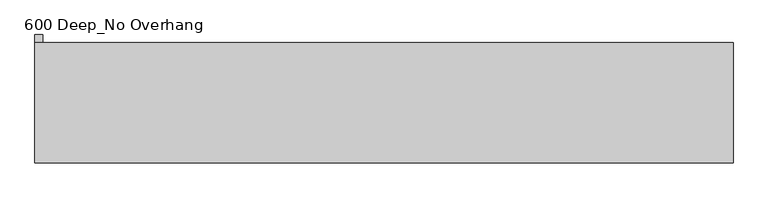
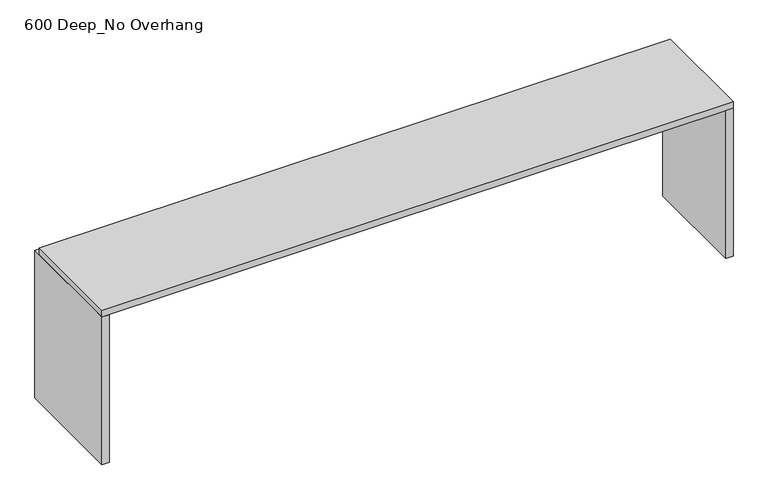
"""IFC4 building model written with IfcOpenShell, lengths in millimetres: furniture geometry, Benchtop_Optional Hole_I Shaped_CAS : 600 Deep_No Overhang."""

import ifcopenshell
import ifcopenshell.guid

model = None  # the IFC model being written
_history = None  # IfcOwnerHistory: only IFC2X3 demands one
_inside = {}  # id of a spatial element -> (the spatial element, [elements in it])
_under = {}  # id of a project, library or spatial element -> (it, [spatial elements below it])
_declared = {}  # id of a project -> (the project, [libraries it declares])
_typed = {}  # id of a type object -> (the type object, [elements of that type])
_made_of = {}  # id of a material, layer set ... -> (it, [elements and type objects made of it])


def new_model(schema):
    """Start an empty IFC model of exactly this schema.

    Asked for "IFC4X3", IfcOpenShell would pick the latest addendum, in which some entities
    have other attributes; the version numbers below select the first issue.
    IFC2X3 requires an IfcOwnerHistory on every rooted entity: one is made here for all.
    """
    global model, _history
    if schema == "IFC4X3":
        model = ifcopenshell.file(schema_version=(4, 3, 0, 0))
    else:
        model = ifcopenshell.file(schema=schema)
    _inside.clear()
    _under.clear()
    _declared.clear()
    _typed.clear()
    _made_of.clear()
    _history = None
    if model.schema == "IFC2X3":
        org = make("IfcOrganization", Name="unknown")
        user = make(
            "IfcPersonAndOrganization",
            ThePerson=make("IfcPerson", FamilyName="unknown"),
            TheOrganization=org,
        )
        app = make(
            "IfcApplication",
            ApplicationDeveloper=org,
            Version="unknown",
            ApplicationFullName="unknown",
            ApplicationIdentifier="unknown",
        )
        _history = make(
            "IfcOwnerHistory",
            OwningUser=user,
            OwningApplication=app,
            ChangeAction="ADDED",
            CreationDate=0,
        )
    return model


def make(cls, **values):
    """One entity of the class cls with the attributes given. An attribute that is None is left unset."""
    return model.create_entity(
        cls, **{name: value for name, value in values.items() if value is not None}
    )


def rooted(cls, **values):
    """An entity with a GlobalId (a new one), such as an element, a storey or a relation."""
    return make(cls, GlobalId=ifcopenshell.guid.new(), OwnerHistory=_history, **values)


def si_unit(unit_type, name, prefix=None):
    """IfcSIUnit, for example si_unit("LENGTHUNIT", "METRE", prefix="MILLI")."""
    return make("IfcSIUnit", UnitType=unit_type, Prefix=prefix, Name=name)


def assignment(units):
    """IfcUnitAssignment: the units of a project."""
    return None if units is None else make("IfcUnitAssignment", Units=units)


def point(xyz):
    """IfcCartesianPoint."""
    return None if xyz is None else make("IfcCartesianPoint", Coordinates=xyz)


def direction(xyz):
    """IfcDirection."""
    return None if xyz is None else make("IfcDirection", DirectionRatios=xyz)


def frame(location, z_axis=None, x_axis=None):
    """IfcAxis2Placement3D, a coordinate frame: its origin and axes. An axis left out is left unset."""
    return make(
        "IfcAxis2Placement3D",
        Location=point(location),
        Axis=direction(z_axis),
        RefDirection=direction(x_axis),
    )


def origin():
    """The frame at (0, 0, 0) with its axes left unset."""
    return frame((0.0, 0.0, 0.0))


def origin_with_axes():
    """The frame at (0, 0, 0) with the z axis (0, 0, 1) and the x axis (1, 0, 0) written out."""
    return frame((0.0, 0.0, 0.0), z_axis=(0.0, 0.0, 1.0), x_axis=(1.0, 0.0, 0.0))


def place(relative_to, where):
    """IfcLocalPlacement: puts the frame where relative to a parent placement (None: the world)."""
    return make(
        "IfcLocalPlacement", PlacementRelTo=relative_to, RelativePlacement=where
    )


def context(
    kind, dimensions, precision=None, world=None, true_north=None, identifier=None
):
    """IfcGeometricRepresentationContext, for example the 3D "Model" context."""
    return make(
        "IfcGeometricRepresentationContext",
        ContextIdentifier=identifier,
        ContextType=kind,
        CoordinateSpaceDimension=dimensions,
        Precision=precision,
        WorldCoordinateSystem=world,
        TrueNorth=true_north,
    )


def project(units=None, contexts=None):
    """IfcProject with its units and contexts."""
    return rooted(
        "IfcProject",
        Name="project",
        RepresentationContexts=contexts,
        UnitsInContext=assignment(units),
    )


def spatial(cls, under=None, at=None, **own):
    """A site, building, storey or space (cls), placed at a placement, below another one or the project."""
    s = rooted(cls, ObjectPlacement=at, **own)
    if under is not None:
        _under.setdefault(under.id(), (under, []))[1].append(s)
    return s


def polyline(points):
    """IfcPolyline through the points."""
    return make("IfcPolyline", Points=[point(p) for p in points])


def outline(outer, holes=None, kind="AREA"):
    """IfcArbitraryClosedProfileDef: a profile drawn as a closed curve; with holes, ...WithVoids."""
    if holes is None:
        return make("IfcArbitraryClosedProfileDef", ProfileType=kind, OuterCurve=outer)
    return make(
        "IfcArbitraryProfileDefWithVoids",
        ProfileType=kind,
        OuterCurve=outer,
        InnerCurves=holes,
    )


def extrude(swept, where, along, depth):
    """IfcExtrudedAreaSolid: the profile swept, set in the frame where, extruded along a direction by depth."""
    return make(
        "IfcExtrudedAreaSolid",
        SweptArea=swept,
        Position=where,
        ExtrudedDirection=direction(along),
        Depth=depth,
    )


def shape(context_of_items, identifier, shape_type, items):
    """IfcShapeRepresentation: the items that make up one representation, for example the "Body"."""
    return make(
        "IfcShapeRepresentation",
        ContextOfItems=context_of_items,
        RepresentationIdentifier=identifier,
        RepresentationType=shape_type,
        Items=items,
    )


def source(mapping_origin, context_of_items, identifier, shape_type, items):
    """IfcRepresentationMap: a shape defined once, which mapped items show again and again."""
    return make(
        "IfcRepresentationMap",
        MappingOrigin=mapping_origin,
        MappedRepresentation=shape(context_of_items, identifier, shape_type, items),
    )


def transform(
    local_origin,
    x_axis=None,
    y_axis=None,
    z_axis=None,
    scale=None,
    scale2=None,
    scale3=None,
    uniform=True,
):
    """IfcCartesianTransformationOperator3D, or its non-uniform kind. x_axis, y_axis, z_axis: its Axis1, 2, 3."""
    if uniform:
        return make(
            "IfcCartesianTransformationOperator3D",
            Axis1=direction(x_axis),
            Axis2=direction(y_axis),
            LocalOrigin=point(local_origin),
            Scale=scale,
            Axis3=direction(z_axis),
        )
    return make(
        "IfcCartesianTransformationOperator3DnonUniform",
        Axis1=direction(x_axis),
        Axis2=direction(y_axis),
        LocalOrigin=point(local_origin),
        Scale=scale,
        Axis3=direction(z_axis),
        Scale2=scale2,
        Scale3=scale3,
    )


def mapped(mapping_source, mapping_target):
    """IfcMappedItem: shows the shape of a source again, moved by a transform."""
    return make(
        "IfcMappedItem", MappingSource=mapping_source, MappingTarget=mapping_target
    )


def made_of(thing, what):
    """Note that an element or type object is made of a material, layer set ...; save() writes the relation."""
    if what is not None:
        _made_of.setdefault(what.id(), (what, []))[1].append(thing)
    return thing


def element(
    cls,
    number,
    at=None,
    inside=None,
    cuts=None,
    type_object=None,
    material=None,
    context=None,
    identifier="Body",
    shape_type=None,
    held_by="IfcProductDefinitionShape",
    body=None,
    shapes=None,
    **own,
):
    """One element of the class cls, such as IfcWall. Its Tag is "e" and its number.

    at: its placement. inside: the storey or other place that contains it. cuts: it is an
    opening in that element (IfcRelVoidsElement). A single representation is given by context,
    identifier, shape_type and body (its items); several are given by shapes. held_by: the class
    of the entity that holds the representations. save() writes the other relations.
    """
    e = rooted(cls, Tag="e%d" % number, ObjectPlacement=at, **own)
    if body is not None:
        shapes = [shape(context, identifier, shape_type, body)]
    if shapes is not None:
        e.Representation = make(held_by, Representations=shapes)
    if inside is not None:
        _inside.setdefault(inside.id(), (inside, []))[1].append(e)
    if cuts is not None:
        rooted(
            "IfcRelVoidsElement", RelatingBuildingElement=cuts, RelatedOpeningElement=e
        )
    if type_object is not None:
        _typed.setdefault(type_object.id(), (type_object, []))[1].append(e)
    return made_of(e, material)


def aggregate(whole, parts):
    """IfcRelAggregates: a whole, such as a stair, and the parts it consists of."""
    return rooted("IfcRelAggregates", RelatingObject=whole, RelatedObjects=parts)


def save(model, path):
    """Write the relations noted so far, then the file.

    IfcRelAggregates (storeys below a building ...), IfcRelContainedInSpatialStructure (elements
    in a storey), IfcRelDefinesByType, IfcRelAssociatesMaterial and IfcRelDeclares: one each for
    every whole, place, type object, material and project.
    """
    for whole, parts in _under.values():
        aggregate(whole, parts)
    for where, things in _inside.values():
        rooted(
            "IfcRelContainedInSpatialStructure",
            RelatedElements=things,
            RelatingStructure=where,
        )
    for kind, things in _typed.values():
        rooted("IfcRelDefinesByType", RelatedObjects=things, RelatingType=kind)
    for what, things in _made_of.values():
        rooted("IfcRelAssociatesMaterial", RelatedObjects=things, RelatingMaterial=what)
    for by, libraries in _declared.values():
        rooted("IfcRelDeclares", RelatingContext=by, RelatedDefinitions=libraries)
    model.write(path)


def furniture_600_deep_no_overhang_9007ff81(model_context):
    return source(origin(), model_context, "Body", "SweptSolid", [
        extrude(outline(polyline([(2280.6105088, -600.0), (2280.6105088, 0.0), (2320.6105088, 0.0), (2320.6105088, -600.0), (2280.6105088, -600.0)])), origin_with_axes(), (0.0, 0.0, 1.0), 860.0),
        extrude(outline(polyline([(-1115.2996736, 40.0), (-1115.2996736, -600.0), (-1155.2996736, -600.0), (-1155.2996736, 40.0), (-1115.2996736, 40.0)])), origin_with_axes(), (0.0, 0.0, 1.0), 860.0),
        extrude(outline(polyline([(2320.6105088, 0.0), (2320.6105088, -600.0), (-1155.2996736, -600.0), (-1155.2996736, 0.0), (2320.6105088, 0.0)])), frame((0.0, 0.0, 860.0), z_axis=(0.0, 0.0, 1.0), x_axis=(1.0, 0.0, 0.0)), (0.0, 0.0, 1.0), 40.0),
    ])


if __name__ == "__main__":
    model = new_model("IFC4")
    model_context = context("Model", 3, world=origin())
    ifc_project = project(units=[si_unit("LENGTHUNIT", "METRE", prefix="MILLI")], contexts=[model_context])
    site = spatial("IfcSite", under=ifc_project)
    building = spatial("IfcBuilding", under=site)
    placement = place(None, origin())
    furniture_600_deep_no_overhang_shape = furniture_600_deep_no_overhang_9007ff81(model_context)
    element("IfcFurniture", 1, ObjectType="Benchtop_Optional Hole_I Shaped_CAS : 600 Deep_No Overhang", at=placement, inside=building, context=model_context, shape_type="MappedRepresentation", body=[
        mapped(furniture_600_deep_no_overhang_shape, transform((0.0, 0.0, 0.0), x_axis=(1.0, 0.0, 0.0), y_axis=(0.0, 1.0, 0.0), z_axis=(0.0, 0.0, 1.0))),
    ])
    save(model, "model.ifc")
